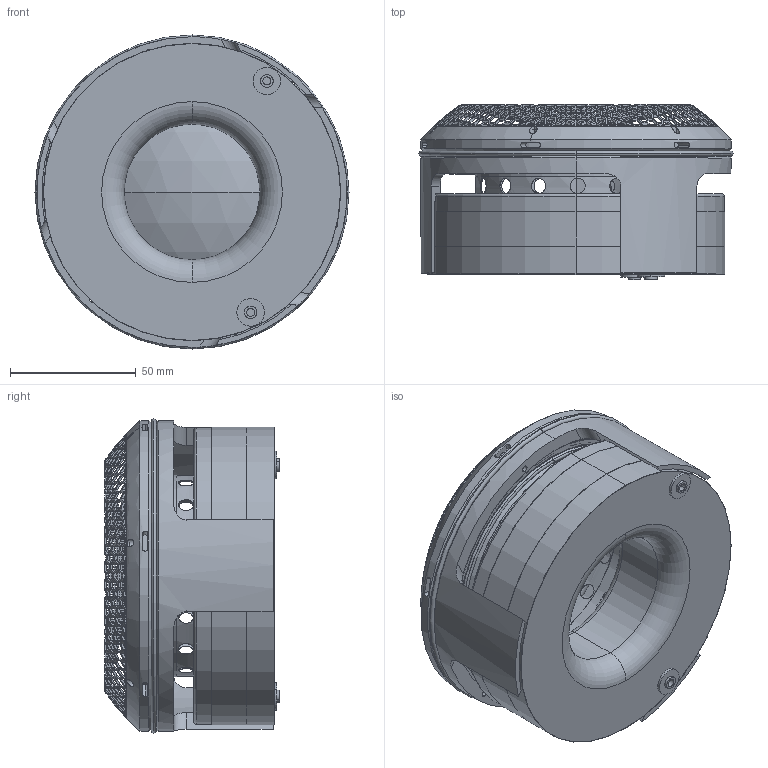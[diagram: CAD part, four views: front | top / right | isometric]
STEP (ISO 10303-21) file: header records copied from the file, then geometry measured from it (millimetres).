
FILE_DESCRIPTION (( 'STEP AP214' ), '1' );
FILE_NAME ('BD090-06-727.STEP', '2020-11-19T12:26:08', ( '' ), ( '' ), 'SwSTEP 2.0', 'SolidWorks 2015', '' );
FILE_SCHEMA (( 'AUTOMOTIVE_DESIGN' ));
Length unit declared in the file: millimetre
Products named in the file (12): KRB_02197; MGS_02194; Isolierbuchse; BD_02319; KRB_01134; VC_02211; OHR_01597; BD090-06-727; TRM_02320_M4x50trhrough; ZEN_01953; GWS_02210; GIT_01601
Assembly tree (13 placements, depth 2):
  BD090-06-727
    KRB_02197
    MGS_02194
    GWS_02210
    KRB_01134
    GIT_01601
    OHR_01597
    VC_02211
    BD_02319
    ZEN_01953
    TRM_02320_M4x50trhrough  x2
    Isolierbuchse  x2
Bounding box: 125 x 69.56 x 125 mm (x, y, z)
Volume: 346280.2 mm3; surface area: 146330.5 mm2
Topology: 13 solids, 13 shells, 5412 faces, 16905 edges, 11215 vertices
Faces by surface type: plane 4464, cylinder 330, torus 318, bspline 236, cone 56, sphere 8
Entity records: 214996 total; most frequent: CARTESIAN_POINT 65976, ORIENTED_EDGE 33742, DIRECTION 28835, EDGE_CURVE 16871, AXIS2_PLACEMENT_3D 11858, VERTEX_POINT 11193, CIRCLE 6683, EDGE_LOOP 6502
